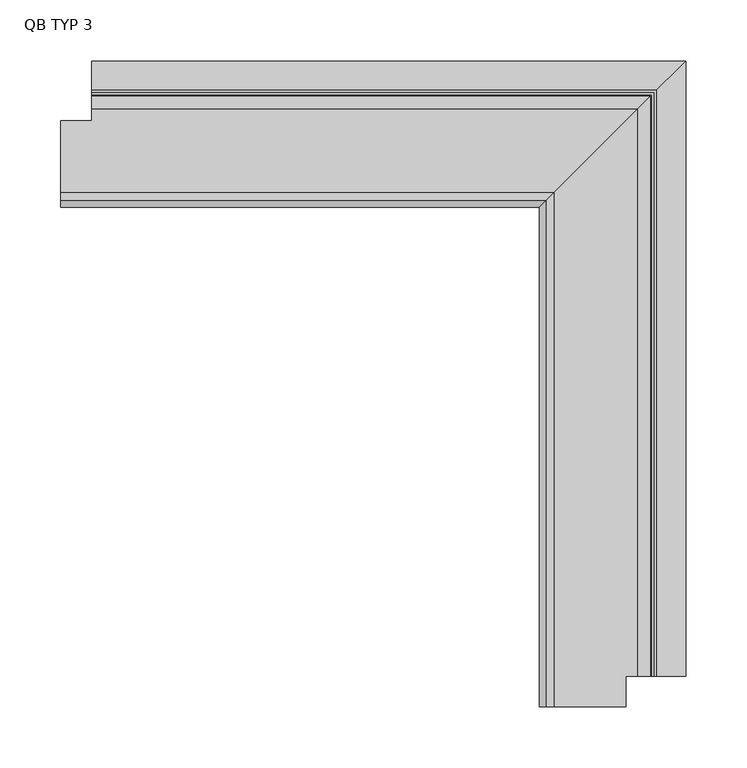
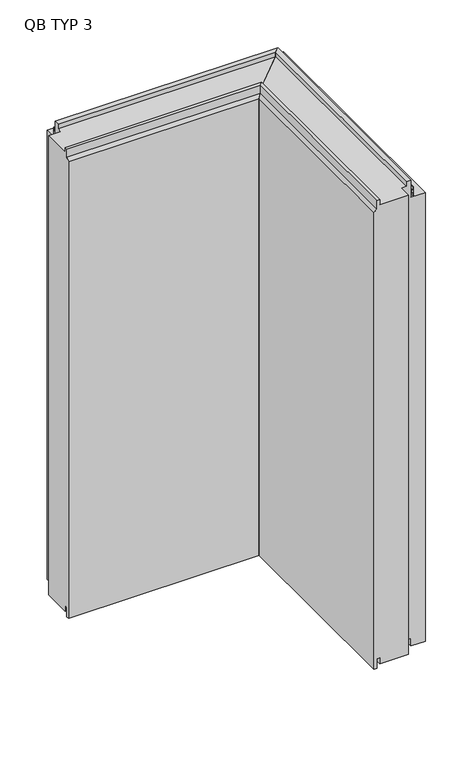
"""IFC4 building model written with IfcOpenShell, lengths in millimetres: plate geometry, TR_C_H_QBISS_Corner_Tr_A : QB TYP 3."""

from ifc_helpers import new_model, si_unit, origin, place, context, project, spatial, faceted_brep, source, transform, mapped, element, save


def qb_typ_3_5a49b5ee(model_context):
    return source(origin(), model_context, "Body", "Brep", [
        faceted_brep([(130.0, -529.4, -8.0), (136.0, -529.4, -8.0), (136.0, -529.4, 13.0), (142.0, -529.4, 13.0), (142.0, -529.4, 0.0), (201.0, -529.4, 0.0), (201.0, -529.4, 1000.0), (142.0, -529.4, 1000.0), (142.0, -529.4, 1010.0), (136.0, -529.4, 1010.0), (136.0, -529.4, 992.0), (130.0, -529.4, 986.0), (130.0, -120.0, -8.0), (136.0, -114.0, -8.0), (136.0, -114.0, 13.0), (142.0, -108.0, 13.0), (142.0, -108.0, 0.0), (211.0, -39.0, 0.0), (211.0, -504.3, 0.0), (201.0, -504.3, 0.0), (211.0, -504.3, 13.0), (211.0, -39.0, 13.0), (221.0, -504.3, 13.0), (221.0, -29.0, 13.0), (221.0, -504.3, -4.0), (221.0, -29.0, -4.0), (250.0, 0.0, -4.0), (250.0, -504.3, -4.0), (250.0, 0.0, 973.0), (250.0, -504.3, 973.0), (221.0, -29.0, 973.0), (221.0, -504.3, 973.0), (221.0, -504.3, 1010.0), (221.0, -29.0, 1010.0), (211.0, -504.3, 1010.0), (211.0, -39.0, 1010.0), (211.0, -504.3, 1000.0), (211.0, -39.0, 1000.0), (201.0, -504.3, 1000.0), (142.0, -108.0, 1000.0), (142.0, -108.0, 1010.0), (136.0, -114.0, 1010.0), (136.0, -114.0, 992.0), (130.0, -120.0, 986.0)], [[[0, 1, 2, 3, 4, 5, 6, 7, 8, 9, 10, 11]], [[1, 0, 12, 13]], [[2, 1, 13, 14]], [[3, 2, 14, 15]], [[4, 3, 15, 16]], [[5, 4, 16, 17, 18, 19]], [[20, 18, 17, 21]], [[22, 20, 21, 23]], [[24, 22, 23, 25]], [[26, 27, 24, 25]], [[27, 26, 28, 29]], [[29, 28, 30, 31]], [[32, 31, 30, 33]], [[34, 32, 33, 35]], [[36, 34, 35, 37]], [[7, 6, 38, 36, 37, 39]], [[8, 7, 39, 40]], [[9, 8, 40, 41]], [[10, 9, 41, 42]], [[11, 10, 42, 43]], [[0, 11, 43, 12]], [[19, 38, 6, 5]], [[38, 19, 18, 20, 22, 24, 27, 29, 31, 32, 34, 36]], [[13, 12, 43, 42, 41, 40, 39, 37, 35, 33, 30, 28, 26, 25, 23, 21, 17, 16, 15, 14]]]),
        faceted_brep([(-262.4, -108.0, 0.0), (-262.4, -108.0, 13.0), (-262.4, -114.0, 13.0), (-262.4, -114.0, -8.0), (-262.4, -120.0, -8.0), (-262.4, -120.0, 986.0), (-262.4, -114.0, 992.0), (-262.4, -114.0, 1010.0), (-262.4, -108.0, 1010.0), (-262.4, -108.0, 1000.0), (-262.4, -49.0, 1000.0), (-262.4, -49.0, 0.0), (-237.3, -49.0, 0.0), (-237.3, -39.0, 0.0), (211.0, -39.0, 0.0), (142.0, -108.0, 0.0), (-237.3, -39.0, 13.0), (211.0, -39.0, 13.0), (-237.3, -29.0, 13.0), (221.0, -29.0, 13.0), (-237.3, -29.0, -4.0), (221.0, -29.0, -4.0), (-237.3, 0.0, -4.0), (250.0, 0.0, -4.0), (-237.3, 0.0, 973.0), (250.0, 0.0, 973.0), (-237.3, -29.0, 973.0), (221.0, -29.0, 973.0), (-237.3, -29.0, 1010.0), (221.0, -29.0, 1010.0), (-237.3, -39.0, 1010.0), (211.0, -39.0, 1010.0), (-237.3, -39.0, 1000.0), (211.0, -39.0, 1000.0), (142.0, -108.0, 1000.0), (-237.3, -49.0, 1000.0), (142.0, -108.0, 1010.0), (136.0, -114.0, 1010.0), (136.0, -114.0, 992.0), (130.0, -120.0, 986.0), (130.0, -120.0, -8.0), (136.0, -114.0, -8.0), (136.0, -114.0, 13.0), (142.0, -108.0, 13.0)], [[[0, 1, 2, 3, 4, 5, 6, 7, 8, 9, 10, 11]], [[0, 11, 12, 13, 14, 15]], [[13, 16, 17, 14]], [[16, 18, 19, 17]], [[18, 20, 21, 19]], [[22, 23, 21, 20]], [[23, 22, 24, 25]], [[25, 24, 26, 27]], [[26, 28, 29, 27]], [[28, 30, 31, 29]], [[30, 32, 33, 31]], [[10, 9, 34, 33, 32, 35]], [[9, 8, 36, 34]], [[8, 7, 37, 36]], [[7, 6, 38, 37]], [[6, 5, 39, 38]], [[5, 4, 40, 39]], [[4, 3, 41, 40]], [[3, 2, 42, 41]], [[2, 1, 43, 42]], [[1, 0, 15, 43]], [[35, 12, 11, 10]], [[12, 35, 32, 30, 28, 26, 24, 22, 20, 18, 16, 13]], [[15, 14, 17, 19, 21, 23, 25, 27, 29, 31, 33, 34, 36, 37, 38, 39, 40, 41, 42, 43]]]),
        faceted_brep([(226.0, -504.3, 994.5), (224.5001683, -504.3, 994.5), (224.5001683, -504.3, 987.7023593), (222.0001707, -504.3, 987.7023593), (222.0001707, -504.3, 988.5023593), (221.2001572, -504.3, 988.5023593), (221.2001572, -504.3, 980.5023028), (222.0001707, -504.3, 980.5023028), (222.0001707, -504.3, 981.3023028), (224.5001683, -504.3, 981.3023028), (224.5001683, -504.3, 974.5), (226.0, -504.3, 974.5), (-237.3, -24.0, 994.5), (-237.3, -24.0, 974.5), (-237.3, -25.4998317, 974.5), (-237.3, -25.4998317, 981.3023028), (-237.3, -27.9998293, 981.3023028), (-237.3, -27.9998293, 980.5023028), (-237.3, -28.7998428, 980.5023028), (-237.3, -28.7998428, 988.5023593), (-237.3, -27.9998293, 988.5023593), (-237.3, -27.9998293, 987.7023593), (-237.3, -25.4998317, 987.7023593), (-237.3, -25.4998317, 994.5), (226.0, -24.0, 994.5), (224.5001683, -25.4998317, 994.5), (224.5001683, -25.4998317, 987.7023593), (222.0001707, -27.9998293, 987.7023593), (222.0001707, -27.9998293, 988.5023593), (221.2001572, -28.7998428, 988.5023593), (221.2001572, -28.7998428, 980.5023028), (222.0001707, -27.9998293, 980.5023028), (222.0001707, -27.9998293, 981.3023028), (224.5001683, -25.4998317, 981.3023028), (224.5001683, -25.4998317, 974.5), (226.0, -24.0, 974.5)], [[[0, 1, 2, 3, 4, 5, 6, 7, 8, 9, 10, 11]], [[12, 13, 14, 15, 16, 17, 18, 19, 20, 21, 22, 23]], [[1, 0, 24, 12, 23, 25]], [[2, 1, 25, 26]], [[3, 2, 26, 22, 21, 27]], [[4, 3, 27, 28]], [[5, 4, 28, 20, 19, 29]], [[6, 5, 29, 30]], [[7, 6, 30, 18, 17, 31]], [[8, 7, 31, 32]], [[9, 8, 32, 16, 15, 33]], [[10, 9, 33, 34]], [[11, 10, 34, 14, 13, 35]], [[0, 11, 35, 24]], [[26, 25, 23, 22]], [[28, 27, 21, 20]], [[30, 29, 19, 18]], [[32, 31, 17, 16]], [[34, 33, 15, 14]], [[24, 35, 13, 12]]]),
    ])


if __name__ == "__main__":
    model = new_model("IFC4")
    model_context = context("Model", 3, world=origin())
    ifc_project = project(units=[si_unit("LENGTHUNIT", "METRE", prefix="MILLI")], contexts=[model_context])
    site = spatial("IfcSite", under=ifc_project)
    building = spatial("IfcBuilding", under=site)
    placement = place(None, origin())
    qb_typ_3_shape = qb_typ_3_5a49b5ee(model_context)
    element("IfcPlate", 1, ObjectType="TR_C_H_QBISS_Corner_Tr_A : QB TYP 3", at=placement, inside=building, context=model_context, shape_type="MappedRepresentation", body=[
        mapped(qb_typ_3_shape, transform((0.0, 0.0, 0.0), x_axis=(1.0, 0.0, 0.0), y_axis=(0.0, 1.0, 0.0), z_axis=(0.0, 0.0, 1.0))),
    ])
    save(model, "model.ifc")
